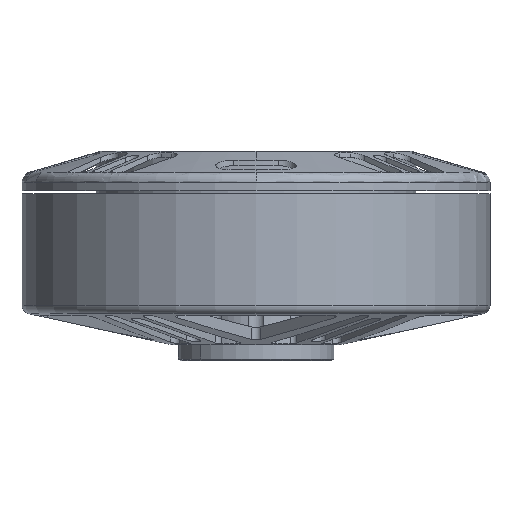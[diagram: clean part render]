
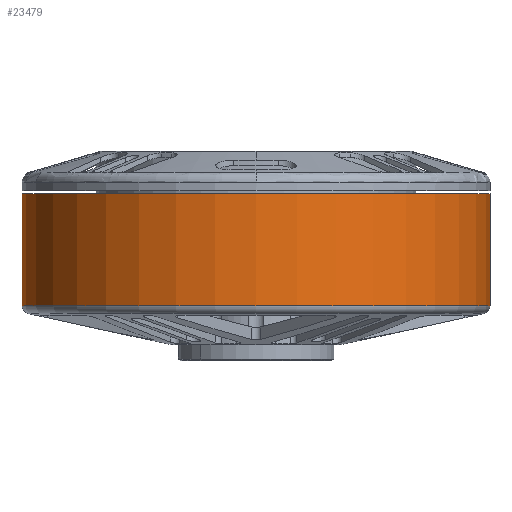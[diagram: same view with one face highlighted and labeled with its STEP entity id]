
A CAD part, front view. The second image highlights one B-rep face of the part: STEP entity #23479.
In plain terms, the highlighted cylindrical face has radius 43.6 mm (diameter 87.2 mm), a partial arc.
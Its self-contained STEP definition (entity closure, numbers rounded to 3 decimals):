
#8599=CARTESIAN_POINT('',(0.,0.,-7.9));
#8600=DIRECTION('',(0.,0.,-1.));
#8601=DIRECTION('',(1.,0.,0.));
#8602=AXIS2_PLACEMENT_3D('',#8599,#8600,#8601);
#8614=DIRECTION('',(0.,0.,1.));
#8615=VECTOR('',#8614,20.891);
#8616=CARTESIAN_POINT('',(43.6,0.,-28.791));
#8617=LINE('',#8616,#8615);
#8618=DIRECTION('',(0.,0.,-1.));
#8619=VECTOR('',#8618,20.891);
#8620=CARTESIAN_POINT('',(-43.6,0.,-7.9));
#8621=LINE('',#8620,#8619);
#8627=CARTESIAN_POINT('',(0.,0.,-28.791));
#8628=DIRECTION('',(0.,0.,-1.));
#8629=DIRECTION('',(1.,0.,0.));
#8630=AXIS2_PLACEMENT_3D('',#8627,#8628,#8629);
#13388=CARTESIAN_POINT('',(43.6,0.,-7.9));
#13389=CARTESIAN_POINT('',(-43.6,0.,-7.9));
#13390=VERTEX_POINT('',#13388);
#13391=VERTEX_POINT('',#13389);
#15505=CARTESIAN_POINT('',(43.6,0.,-28.791));
#15506=VERTEX_POINT('',#15505);
#15507=CARTESIAN_POINT('',(-43.6,0.,-28.791));
#15508=VERTEX_POINT('',#15507);
#23468=CARTESIAN_POINT('',(0.,0.,-26.5));
#23469=DIRECTION('',(0.,0.,-1.));
#23470=DIRECTION('',(1.,0.,0.));
#23471=AXIS2_PLACEMENT_3D('',#23468,#23469,#23470);
#23472=CYLINDRICAL_SURFACE('',#23471,43.6);
#23473=ORIENTED_EDGE('',*,*,#23462,.F.);
#23474=ORIENTED_EDGE('',*,*,#23445,.F.);
#23475=ORIENTED_EDGE('',*,*,#23459,.F.);
#23476=ORIENTED_EDGE('',*,*,#22055,.T.);
#23477=EDGE_LOOP('',(#23473,#23474,#23475,#23476));
#23478=FACE_OUTER_BOUND('',#23477,.F.);
#23479=ADVANCED_FACE('',(#23478),#23472,.T.);
#8603=CIRCLE('',#8602,43.6);
#8631=CIRCLE('',#8630,43.6);
#22055=EDGE_CURVE('',#15506,#15508,#8631,.T.);
#23445=EDGE_CURVE('',#13390,#13391,#8603,.T.);
#23459=EDGE_CURVE('',#15506,#13390,#8617,.T.);
#23462=EDGE_CURVE('',#13391,#15508,#8621,.T.);
